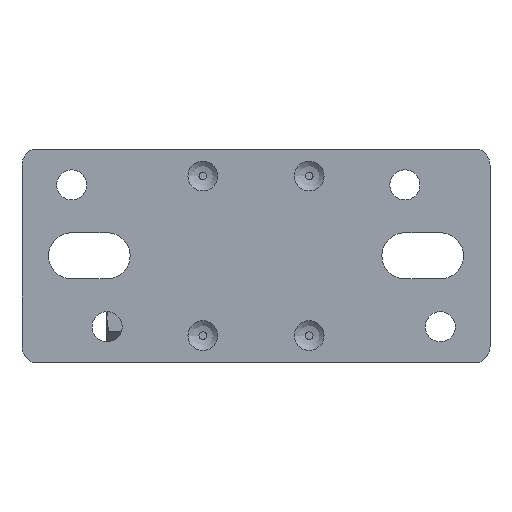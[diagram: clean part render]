
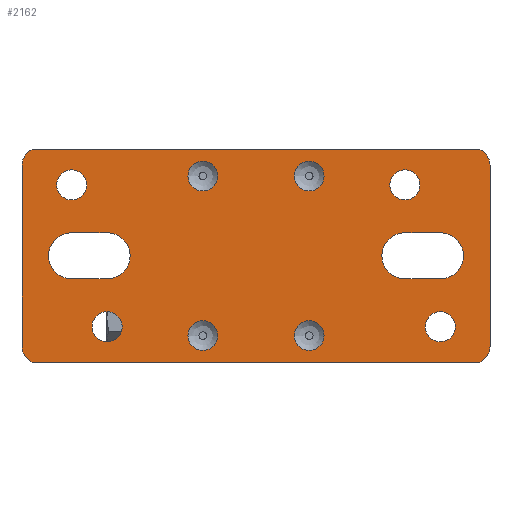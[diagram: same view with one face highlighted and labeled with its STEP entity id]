
A CAD part, top view. The second image highlights one B-rep face of the part: STEP entity #2162.
In plain terms, the highlighted planar face has unit normal (0, 0, 1).
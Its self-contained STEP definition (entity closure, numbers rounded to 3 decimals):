
#53=FACE_BOUND('',#398,.T.);
#54=FACE_BOUND('',#399,.T.);
#55=FACE_BOUND('',#400,.T.);
#56=FACE_BOUND('',#401,.T.);
#57=FACE_BOUND('',#402,.T.);
#58=FACE_BOUND('',#403,.T.);
#59=FACE_BOUND('',#404,.T.);
#60=FACE_BOUND('',#405,.T.);
#61=FACE_BOUND('',#406,.T.);
#62=FACE_BOUND('',#407,.T.);
#240=FACE_OUTER_BOUND('',#397,.T.);
#397=EDGE_LOOP('',(#1653,#1654,#1655,#1656,#1657,#1658,#1659,#1660));
#398=EDGE_LOOP('',(#1661,#1662,#1663,#1664));
#399=EDGE_LOOP('',(#1665,#1666,#1667,#1668));
#400=EDGE_LOOP('',(#1669,#1670));
#401=EDGE_LOOP('',(#1671,#1672));
#402=EDGE_LOOP('',(#1673,#1674));
#403=EDGE_LOOP('',(#1675,#1676));
#404=EDGE_LOOP('',(#1677));
#405=EDGE_LOOP('',(#1678));
#406=EDGE_LOOP('',(#1679));
#407=EDGE_LOOP('',(#1680));
#526=CIRCLE('',#2287,6.5);
#528=CIRCLE('',#2291,6.5);
#530=CIRCLE('',#2295,6.5);
#532=CIRCLE('',#2299,6.5);
#546=CIRCLE('',#2317,4.2);
#547=CIRCLE('',#2318,4.2);
#549=CIRCLE('',#2321,4.2);
#550=CIRCLE('',#2322,4.2);
#552=CIRCLE('',#2325,4.2);
#553=CIRCLE('',#2326,4.2);
#555=CIRCLE('',#2329,4.2);
#556=CIRCLE('',#2330,4.2);
#558=CIRCLE('',#2334,4.25);
#560=CIRCLE('',#2337,4.25);
#562=CIRCLE('',#2340,4.25);
#564=CIRCLE('',#2343,4.25);
#566=CIRCLE('',#2346,5.);
#568=CIRCLE('',#2350,5.);
#570=CIRCLE('',#2354,5.);
#572=CIRCLE('',#2358,5.);
#659=LINE('',#3274,#819);
#664=LINE('',#3288,#824);
#667=LINE('',#3298,#827);
#672=LINE('',#3312,#832);
#677=LINE('',#3646,#837);
#681=LINE('',#3658,#841);
#685=LINE('',#3670,#845);
#689=LINE('',#3681,#849);
#819=VECTOR('',#2603,10.);
#824=VECTOR('',#2616,10.);
#827=VECTOR('',#2627,10.);
#832=VECTOR('',#2640,10.);
#837=VECTOR('',#2747,126.359);
#841=VECTOR('',#2759,51.);
#845=VECTOR('',#2771,126.359);
#849=VECTOR('',#2783,51.);
#975=VERTEX_POINT('',#3272);
#976=VERTEX_POINT('',#3273);
#979=VERTEX_POINT('',#3281);
#981=VERTEX_POINT('',#3287);
#983=VERTEX_POINT('',#3296);
#984=VERTEX_POINT('',#3297);
#987=VERTEX_POINT('',#3305);
#989=VERTEX_POINT('',#3311);
#1003=VERTEX_POINT('',#3494);
#1004=VERTEX_POINT('',#3495);
#1006=VERTEX_POINT('',#3531);
#1007=VERTEX_POINT('',#3532);
#1009=VERTEX_POINT('',#3568);
#1010=VERTEX_POINT('',#3569);
#1012=VERTEX_POINT('',#3605);
#1013=VERTEX_POINT('',#3606);
#1015=VERTEX_POINT('',#3616);
#1017=VERTEX_POINT('',#3621);
#1019=VERTEX_POINT('',#3626);
#1021=VERTEX_POINT('',#3631);
#1023=VERTEX_POINT('',#3636);
#1024=VERTEX_POINT('',#3637);
#1027=VERTEX_POINT('',#3645);
#1029=VERTEX_POINT('',#3651);
#1031=VERTEX_POINT('',#3657);
#1033=VERTEX_POINT('',#3663);
#1035=VERTEX_POINT('',#3669);
#1037=VERTEX_POINT('',#3675);
#1176=EDGE_CURVE('',#975,#976,#659,.T.);
#1180=EDGE_CURVE('',#976,#979,#526,.T.);
#1183=EDGE_CURVE('',#979,#981,#664,.T.);
#1186=EDGE_CURVE('',#981,#975,#528,.T.);
#1188=EDGE_CURVE('',#983,#984,#667,.T.);
#1192=EDGE_CURVE('',#984,#987,#530,.T.);
#1195=EDGE_CURVE('',#987,#989,#672,.T.);
#1198=EDGE_CURVE('',#989,#983,#532,.T.);
#1216=EDGE_CURVE('',#1003,#1004,#546,.T.);
#1217=EDGE_CURVE('',#1004,#1003,#547,.T.);
#1220=EDGE_CURVE('',#1006,#1007,#549,.T.);
#1221=EDGE_CURVE('',#1007,#1006,#550,.T.);
#1224=EDGE_CURVE('',#1009,#1010,#552,.T.);
#1225=EDGE_CURVE('',#1010,#1009,#553,.T.);
#1228=EDGE_CURVE('',#1012,#1013,#555,.T.);
#1229=EDGE_CURVE('',#1013,#1012,#556,.T.);
#1232=EDGE_CURVE('',#1015,#1015,#558,.T.);
#1234=EDGE_CURVE('',#1017,#1017,#560,.T.);
#1236=EDGE_CURVE('',#1019,#1019,#562,.T.);
#1238=EDGE_CURVE('',#1021,#1021,#564,.T.);
#1240=EDGE_CURVE('',#1023,#1024,#566,.T.);
#1244=EDGE_CURVE('',#1024,#1027,#677,.T.);
#1247=EDGE_CURVE('',#1027,#1029,#568,.T.);
#1250=EDGE_CURVE('',#1029,#1031,#681,.T.);
#1253=EDGE_CURVE('',#1031,#1033,#570,.T.);
#1256=EDGE_CURVE('',#1033,#1035,#685,.T.);
#1259=EDGE_CURVE('',#1035,#1037,#572,.T.);
#1262=EDGE_CURVE('',#1037,#1023,#689,.T.);
#1653=ORIENTED_EDGE('',*,*,#1240,.F.);
#1654=ORIENTED_EDGE('',*,*,#1262,.F.);
#1655=ORIENTED_EDGE('',*,*,#1259,.F.);
#1656=ORIENTED_EDGE('',*,*,#1256,.F.);
#1657=ORIENTED_EDGE('',*,*,#1253,.F.);
#1658=ORIENTED_EDGE('',*,*,#1250,.F.);
#1659=ORIENTED_EDGE('',*,*,#1247,.F.);
#1660=ORIENTED_EDGE('',*,*,#1244,.F.);
#1661=ORIENTED_EDGE('',*,*,#1183,.T.);
#1662=ORIENTED_EDGE('',*,*,#1186,.T.);
#1663=ORIENTED_EDGE('',*,*,#1176,.T.);
#1664=ORIENTED_EDGE('',*,*,#1180,.T.);
#1665=ORIENTED_EDGE('',*,*,#1195,.T.);
#1666=ORIENTED_EDGE('',*,*,#1198,.T.);
#1667=ORIENTED_EDGE('',*,*,#1188,.T.);
#1668=ORIENTED_EDGE('',*,*,#1192,.T.);
#1669=ORIENTED_EDGE('',*,*,#1228,.T.);
#1670=ORIENTED_EDGE('',*,*,#1229,.T.);
#1671=ORIENTED_EDGE('',*,*,#1220,.T.);
#1672=ORIENTED_EDGE('',*,*,#1221,.T.);
#1673=ORIENTED_EDGE('',*,*,#1224,.T.);
#1674=ORIENTED_EDGE('',*,*,#1225,.T.);
#1675=ORIENTED_EDGE('',*,*,#1216,.T.);
#1676=ORIENTED_EDGE('',*,*,#1217,.T.);
#1677=ORIENTED_EDGE('',*,*,#1232,.T.);
#1678=ORIENTED_EDGE('',*,*,#1234,.T.);
#1679=ORIENTED_EDGE('',*,*,#1236,.T.);
#1680=ORIENTED_EDGE('',*,*,#1238,.T.);
#2052=PLANE('',#2362);
#2162=ADVANCED_FACE('',(#240,#53,#54,#55,#56,#57,#58,#59,#60,#61,#62),#2052,
 .T.);
#2287=AXIS2_PLACEMENT_3D('',#3282,#2609,#2610);
#2291=AXIS2_PLACEMENT_3D('',#3293,#2621,#2622);
#2295=AXIS2_PLACEMENT_3D('',#3306,#2633,#2634);
#2299=AXIS2_PLACEMENT_3D('',#3317,#2645,#2646);
#2317=AXIS2_PLACEMENT_3D('',#3496,#2681,#2682);
#2318=AXIS2_PLACEMENT_3D('',#3497,#2683,#2684);
#2321=AXIS2_PLACEMENT_3D('',#3533,#2689,#2690);
#2322=AXIS2_PLACEMENT_3D('',#3534,#2691,#2692);
#2325=AXIS2_PLACEMENT_3D('',#3570,#2697,#2698);
#2326=AXIS2_PLACEMENT_3D('',#3571,#2699,#2700);
#2329=AXIS2_PLACEMENT_3D('',#3607,#2705,#2706);
#2330=AXIS2_PLACEMENT_3D('',#3608,#2707,#2708);
#2334=AXIS2_PLACEMENT_3D('',#3617,#2715,#2716);
#2337=AXIS2_PLACEMENT_3D('',#3622,#2721,#2722);
#2340=AXIS2_PLACEMENT_3D('',#3627,#2727,#2728);
#2343=AXIS2_PLACEMENT_3D('',#3632,#2733,#2734);
#2346=AXIS2_PLACEMENT_3D('',#3638,#2739,#2740);
#2350=AXIS2_PLACEMENT_3D('',#3652,#2752,#2753);
#2354=AXIS2_PLACEMENT_3D('',#3664,#2764,#2765);
#2358=AXIS2_PLACEMENT_3D('',#3676,#2776,#2777);
#2362=AXIS2_PLACEMENT_3D('',#3684,#2787,#2788);
#2603=DIRECTION('',(-1.,0.,0.));
#2609=DIRECTION('center_axis',(0.,0.,-1.));
#2610=DIRECTION('ref_axis',(0.,-1.,0.));
#2616=DIRECTION('',(1.,0.,0.));
#2621=DIRECTION('center_axis',(0.,0.,-1.));
#2622=DIRECTION('ref_axis',(0.,1.,0.));
#2627=DIRECTION('',(1.,0.,0.));
#2633=DIRECTION('center_axis',(0.,0.,-1.));
#2634=DIRECTION('ref_axis',(0.,-1.,0.));
#2640=DIRECTION('',(-1.,0.,0.));
#2645=DIRECTION('center_axis',(0.,0.,-1.));
#2646=DIRECTION('ref_axis',(0.,1.,0.));
#2681=DIRECTION('center_axis',(0.,0.,-1.));
#2682=DIRECTION('ref_axis',(-1.,0.,0.));
#2683=DIRECTION('center_axis',(0.,0.,-1.));
#2684=DIRECTION('ref_axis',(-1.,0.,0.));
#2689=DIRECTION('center_axis',(0.,0.,-1.));
#2690=DIRECTION('ref_axis',(-1.,0.,0.));
#2691=DIRECTION('center_axis',(0.,0.,-1.));
#2692=DIRECTION('ref_axis',(-1.,0.,0.));
#2697=DIRECTION('center_axis',(0.,0.,-1.));
#2698=DIRECTION('ref_axis',(-1.,0.,0.));
#2699=DIRECTION('center_axis',(0.,0.,-1.));
#2700=DIRECTION('ref_axis',(-1.,0.,0.));
#2705=DIRECTION('center_axis',(0.,0.,-1.));
#2706=DIRECTION('ref_axis',(-1.,0.,0.));
#2707=DIRECTION('center_axis',(0.,0.,-1.));
#2708=DIRECTION('ref_axis',(-1.,0.,0.));
#2715=DIRECTION('center_axis',(0.,0.,-1.));
#2716=DIRECTION('ref_axis',(-1.,0.,0.));
#2721=DIRECTION('center_axis',(0.,0.,-1.));
#2722=DIRECTION('ref_axis',(-1.,0.,0.));
#2727=DIRECTION('center_axis',(0.,0.,-1.));
#2728=DIRECTION('ref_axis',(-1.,0.,0.));
#2733=DIRECTION('center_axis',(0.,0.,-1.));
#2734=DIRECTION('ref_axis',(-1.,0.,0.));
#2739=DIRECTION('center_axis',(0.,0.,-1.));
#2740=DIRECTION('ref_axis',(-0.436,0.9,0.));
#2747=DIRECTION('',(1.,0.,0.));
#2752=DIRECTION('center_axis',(0.,0.,-1.));
#2753=DIRECTION('ref_axis',(1.,0.,0.));
#2759=DIRECTION('',(0.,-1.,0.));
#2764=DIRECTION('center_axis',(0.,0.,-1.));
#2765=DIRECTION('ref_axis',(0.436,-0.9,0.));
#2771=DIRECTION('',(-1.,0.,0.));
#2776=DIRECTION('center_axis',(0.,0.,-1.));
#2777=DIRECTION('ref_axis',(-1.,0.,0.));
#2783=DIRECTION('',(0.,1.,0.));
#2787=DIRECTION('center_axis',(0.,0.,1.));
#2788=DIRECTION('ref_axis',(1.,0.,0.));
#3272=CARTESIAN_POINT('',(52.,-6.5,5.));
#3273=CARTESIAN_POINT('',(42.,-6.5,5.));
#3274=CARTESIAN_POINT('',(26.,-6.5,5.));
#3281=CARTESIAN_POINT('',(42.,6.5,5.));
#3282=CARTESIAN_POINT('Origin',(42.,0.,5.));
#3287=CARTESIAN_POINT('',(52.,6.5,5.));
#3288=CARTESIAN_POINT('',(21.,6.5,5.));
#3293=CARTESIAN_POINT('Origin',(52.,0.,5.));
#3296=CARTESIAN_POINT('',(-52.,6.5,5.));
#3297=CARTESIAN_POINT('',(-42.,6.5,5.));
#3298=CARTESIAN_POINT('',(-21.805,6.5,5.));
#3305=CARTESIAN_POINT('',(-42.,-6.5,5.));
#3306=CARTESIAN_POINT('Origin',(-42.,0.,5.));
#3311=CARTESIAN_POINT('',(-52.,-6.5,5.));
#3312=CARTESIAN_POINT('',(-21.,-6.5,5.));
#3317=CARTESIAN_POINT('Origin',(-52.,0.,5.));
#3494=CARTESIAN_POINT('',(-10.8,-22.5,5.));
#3495=CARTESIAN_POINT('',(-19.2,-22.5,5.));
#3496=CARTESIAN_POINT('Origin',(-15.,-22.5,5.));
#3497=CARTESIAN_POINT('Origin',(-15.,-22.5,5.));
#3531=CARTESIAN_POINT('',(19.2,-22.5,5.));
#3532=CARTESIAN_POINT('',(10.8,-22.5,5.));
#3533=CARTESIAN_POINT('Origin',(15.,-22.5,5.));
#3534=CARTESIAN_POINT('Origin',(15.,-22.5,5.));
#3568=CARTESIAN_POINT('',(19.2,22.5,5.));
#3569=CARTESIAN_POINT('',(10.8,22.5,5.));
#3570=CARTESIAN_POINT('Origin',(15.,22.5,5.));
#3571=CARTESIAN_POINT('Origin',(15.,22.5,5.));
#3605=CARTESIAN_POINT('',(-10.8,22.5,5.));
#3606=CARTESIAN_POINT('',(-19.2,22.5,5.));
#3607=CARTESIAN_POINT('Origin',(-15.,22.5,5.));
#3608=CARTESIAN_POINT('Origin',(-15.,22.5,5.));
#3616=CARTESIAN_POINT('',(56.25,-20.,5.));
#3617=CARTESIAN_POINT('Origin',(52.,-20.,5.));
#3621=CARTESIAN_POINT('',(46.25,20.,5.));
#3622=CARTESIAN_POINT('Origin',(42.,20.,5.));
#3626=CARTESIAN_POINT('',(-37.75,-20.,5.));
#3627=CARTESIAN_POINT('Origin',(-42.,-20.,5.));
#3631=CARTESIAN_POINT('',(-47.75,20.,5.));
#3632=CARTESIAN_POINT('Origin',(-52.,20.,5.));
#3636=CARTESIAN_POINT('',(-66.,25.5,5.));
#3637=CARTESIAN_POINT('',(-63.179,30.,5.));
#3638=CARTESIAN_POINT('Origin',(-61.,25.5,5.));
#3645=CARTESIAN_POINT('',(63.179,30.,5.));
#3646=CARTESIAN_POINT('',(63.179,30.,5.));
#3651=CARTESIAN_POINT('',(66.,25.5,5.));
#3652=CARTESIAN_POINT('Origin',(61.,25.5,5.));
#3657=CARTESIAN_POINT('',(66.,-25.5,5.));
#3658=CARTESIAN_POINT('',(66.,-25.5,5.));
#3663=CARTESIAN_POINT('',(63.179,-30.,5.));
#3664=CARTESIAN_POINT('Origin',(61.,-25.5,5.));
#3669=CARTESIAN_POINT('',(-63.179,-30.,5.));
#3670=CARTESIAN_POINT('',(-63.179,-30.,5.));
#3675=CARTESIAN_POINT('',(-66.,-25.5,5.));
#3676=CARTESIAN_POINT('Origin',(-61.,-25.5,5.));
#3681=CARTESIAN_POINT('',(-66.,25.5,5.));
#3684=CARTESIAN_POINT('Origin',(0.,0.,
5.));
